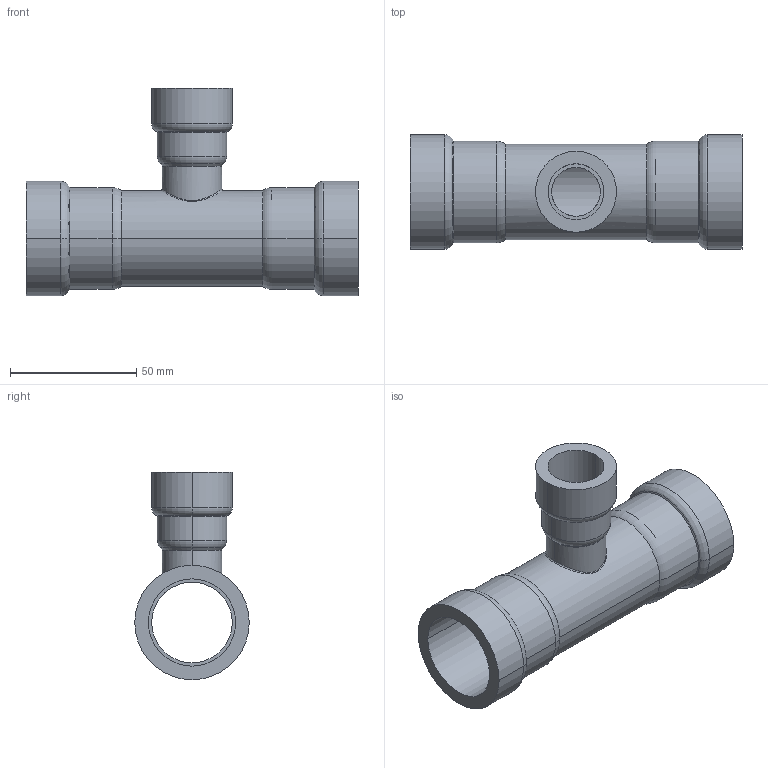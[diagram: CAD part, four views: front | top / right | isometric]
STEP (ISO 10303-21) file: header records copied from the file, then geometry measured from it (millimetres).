
FILE_DESCRIPTION(('Creo Elements/Direct Modeling STEP Export'),'2;1');
FILE_NAME('C9415_1_1-2_1.stp','2020-07-14T17:09:12',(''),(''),'PTC Creo Elements/Direct Modeling STEP processor for AP214 (Solid Model)','PTC Creo Elements/Direct Modeling 19.0C 15-Aug-2015 (C) Parametric Technology GmbH','');
FILE_SCHEMA(('AUTOMOTIVE_DESIGN { 1 0 10303 214 1 1 1 1 }'));
Length unit declared in the file: millimetre
Products named in the file (2): 9415_1_1-2_1
Assembly tree (1 placements, depth 2):
  9415_1_1-2_1
    9415_1_1-2_1
Bounding box: 131.66 x 45.4 x 82.28 mm (x, y, z)
Volume: 65780 mm3; surface area: 39199.9 mm2
Topology: 1 solids, 1 shells, 57 faces, 124 edges, 74 vertices
Faces by surface type: cylinder 26, torus 12, cone 8, plane 7, bspline 4
Entity records: 5032 total; most frequent: CARTESIAN_POINT 3864, ORIENTED_EDGE 248, DIRECTION 226, EDGE_CURVE 124, AXIS2_PLACEMENT_3D 96, VERTEX_POINT 74, EDGE_LOOP 66, FACE_OUTER_BOUND 57
